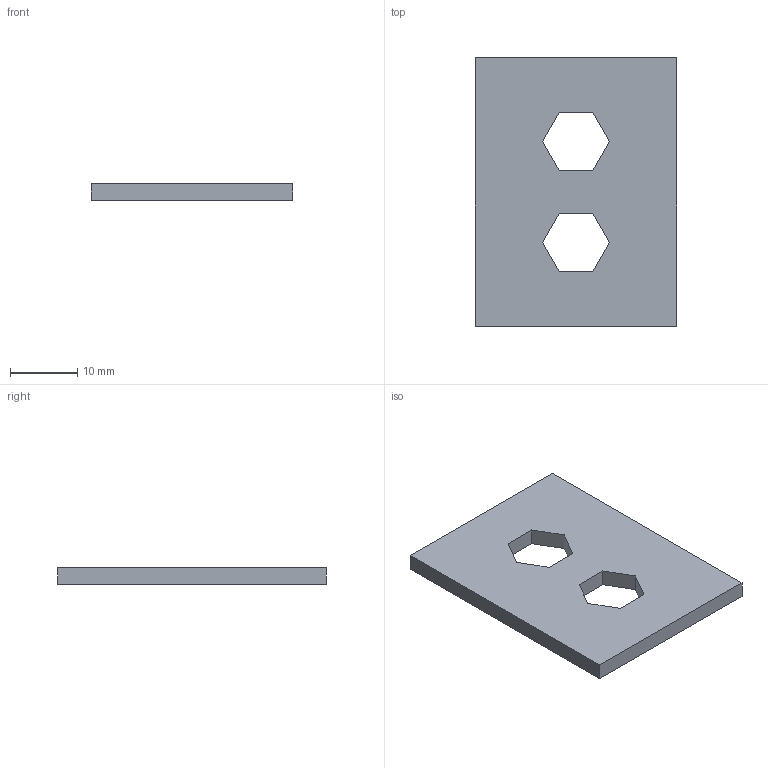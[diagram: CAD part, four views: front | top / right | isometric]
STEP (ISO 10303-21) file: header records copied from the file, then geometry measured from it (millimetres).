
FILE_DESCRIPTION(('Open CASCADE Model'),'2;1');
FILE_NAME('Open CASCADE Shape Model','2026-10-26T18:30:43',('Author'),( 'Open CASCADE'),'Open CASCADE STEP processor 7.9','Open CASCADE 7.9' ,'Unknown');
FILE_SCHEMA(('AUTOMOTIVE_DESIGN { 1 0 10303 214 1 1 1 1 }'));
Length unit declared in the file: millimetre
Products named in the file (1): Open CASCADE STEP translator 7.9 1
Bounding box: 30 x 40 x 2.5 mm (x, y, z)
Volume: 2675.2 mm3; surface area: 2640.2 mm2
Topology: 1 solids, 1 shells, 18 faces, 48 edges, 32 vertices
Faces by surface type: plane 18
Entity records: 1194 total; most frequent: CARTESIAN_POINT 195, DIRECTION 182, LINE 144, VECTOR 144, ORIENTED_EDGE 96, PCURVE 96, DEFINITIONAL_REPRESENTATION 96, EDGE_CURVE 48
